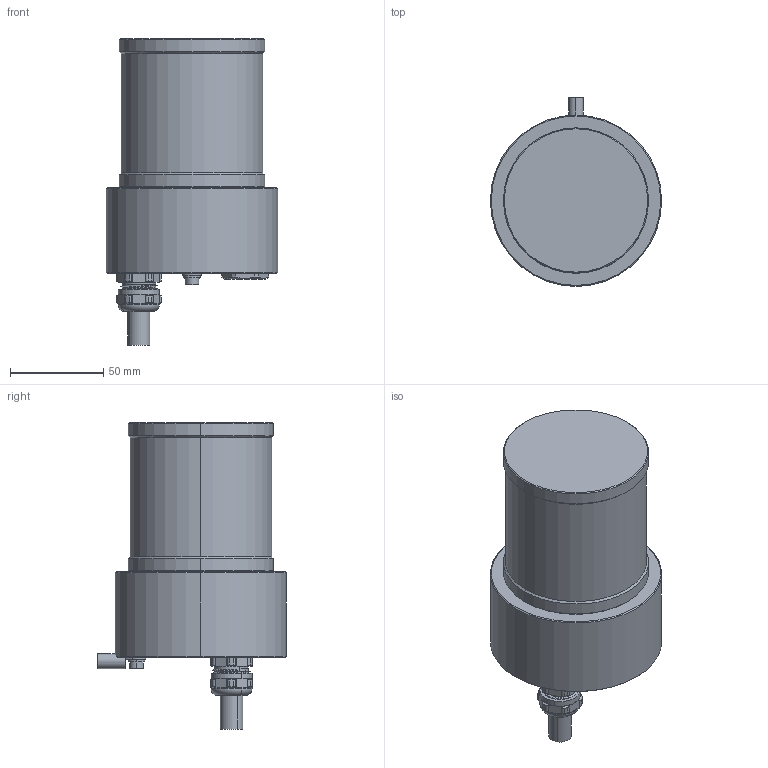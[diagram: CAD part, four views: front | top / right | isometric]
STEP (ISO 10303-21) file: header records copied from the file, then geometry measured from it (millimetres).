
FILE_DESCRIPTION (( 'STEP AP214' ), '1' );
FILE_NAME ('drawing-oc-7-at-800-aem-hccnnn-y-2aw-n.STEP', '2023-06-14T06:19:15', ( '' ), ( '' ), 'SwSTEP 2.0', 'SolidWorks 2022', '' );
FILE_SCHEMA (( 'AUTOMOTIVE_DESIGN' ));
Length unit declared in the file: metre
Products named in the file (1): drawing-oc-7-at-800-aem-hccnnn-y-2aw-n
Bounding box: 92 x 101.49 x 164.52 mm (x, y, z)
Volume: 379197.3 mm3; surface area: 101322.1 mm2
Topology: 17 solids, 23 shells, 942 faces, 2375 edges, 1516 vertices
Faces by surface type: plane 437, cylinder 255, cone 135, bspline 107, torus 8
Entity records: 41102 total; most frequent: CARTESIAN_POINT 8882, ORIENTED_EDGE 4670, DIRECTION 4141, EDGE_CURVE 2335, VERTEX_POINT 1516, VECTOR 1407, LINE 1407, AXIS2_PLACEMENT_3D 1367
